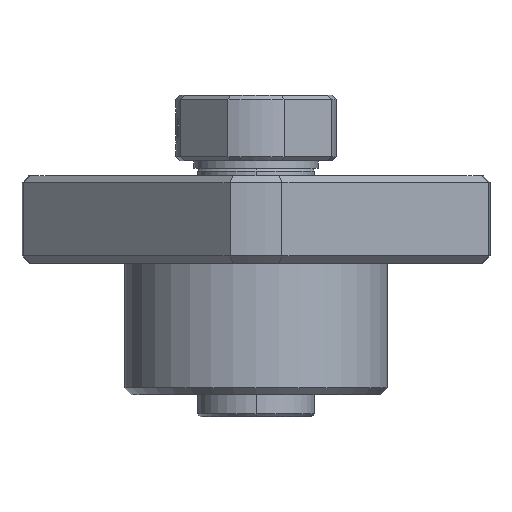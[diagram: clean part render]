
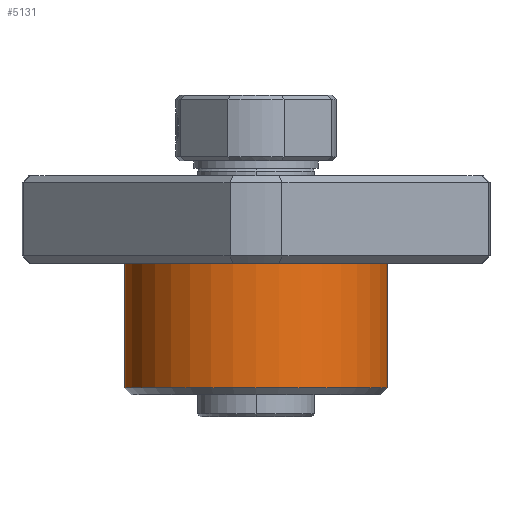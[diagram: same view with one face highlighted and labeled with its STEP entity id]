
A CAD part, left-side view. The second image highlights one B-rep face of the part: STEP entity #5131.
In plain terms, the highlighted cylindrical face has radius 9 mm (diameter 18 mm), a partial arc.
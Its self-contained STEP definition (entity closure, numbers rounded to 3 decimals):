
#165 = CARTESIAN_POINT ( 'NONE',  ( 0., -9., -7. ) ) ;
#166 = CARTESIAN_POINT ( 'NONE',  ( 0., 9., -7. ) ) ;
#243 = CARTESIAN_POINT ( 'NONE',  ( 0., -9., 1.5 ) ) ;
#244 = CARTESIAN_POINT ( 'NONE',  ( 0., 9., 1.5 ) ) ;
#830 = EDGE_LOOP ( 'NONE', ( #893, #891, #892, #890 ) ) ;
#890 = ORIENTED_EDGE ( 'NONE', *, *, #5155, .F. ) ;
#891 = ORIENTED_EDGE ( 'NONE', *, *, #5157, .T. ) ;
#892 = ORIENTED_EDGE ( 'NONE', *, *, #4522, .T. ) ;
#893 = ORIENTED_EDGE ( 'NONE', *, *, #5156, .T. ) ;
#2605 = CARTESIAN_POINT ( 'NONE',  ( 0., 0., -7.5 ) ) ;
#2606 = DIRECTION ( 'NONE',  ( 0., 0., -1. ) ) ;
#2607 = DIRECTION ( 'NONE',  ( 0., -1., 0. ) ) ;
#2671 = CARTESIAN_POINT ( 'NONE',  ( 0., 0., 1.5 ) ) ;
#2681 = LINE ( 'NONE', #2682, #3332 ) ;
#2682 = CARTESIAN_POINT ( 'NONE',  ( 0., -9., -7.5 ) ) ;
#2683 = DIRECTION ( 'NONE',  ( 0., 0., -1. ) ) ;
#2684 = DIRECTION ( 'NONE',  ( 0., 0., -1. ) ) ;
#2685 = DIRECTION ( 'NONE',  ( 0., -1., 0. ) ) ;
#2687 = LINE ( 'NONE', #2688, #3333 ) ;
#2688 = CARTESIAN_POINT ( 'NONE',  ( 0., 9., -7.5 ) ) ;
#2689 = DIRECTION ( 'NONE',  ( 0., 0., -1. ) ) ;
#3293 = FACE_OUTER_BOUND ( 'NONE', #830, .T. ) ;
#3297 = AXIS2_PLACEMENT_3D ( 'NONE', #2605, #2606, #2607 ) ;
#3298 = CYLINDRICAL_SURFACE ( 'NONE', #3297, 9. ) ;
#3324 = AXIS2_PLACEMENT_3D ( 'NONE', #2671, #2684, #2685 ) ;
#3332 = VECTOR ( 'NONE', #2683, 1000. ) ;
#3333 = VECTOR ( 'NONE', #2689, 1000. ) ;
#4433 = CIRCLE ( 'NONE', #3324, 9. ) ;
#4522 = EDGE_CURVE ( 'NONE', #5780, #5779, #5198, .T. ) ;
#5131 = ADVANCED_FACE ( 'NONE', ( #3293 ), #3298, .T. ) ;
#5155 = EDGE_CURVE ( 'NONE', #5857, #5779, #2681, .T. ) ;
#5156 = EDGE_CURVE ( 'NONE', #5857, #5858, #4433, .T. ) ;
#5157 = EDGE_CURVE ( 'NONE', #5858, #5780, #2687, .T. ) ;
#5198 = CIRCLE ( 'NONE', #6457, 9. ) ;
#5624 = CARTESIAN_POINT ( 'NONE',  ( 0., 0., -7. ) ) ;
#5631 = DIRECTION ( 'NONE',  ( 0., 0., 1. ) ) ;
#5632 = DIRECTION ( 'NONE',  ( 0., 1., 0. ) ) ;
#5779 = VERTEX_POINT ( 'NONE', #165 ) ;
#5780 = VERTEX_POINT ( 'NONE', #166 ) ;
#5857 = VERTEX_POINT ( 'NONE', #243 ) ;
#5858 = VERTEX_POINT ( 'NONE', #244 ) ;
#6457 = AXIS2_PLACEMENT_3D ( 'NONE', #5624, #5631, #5632 ) ;
